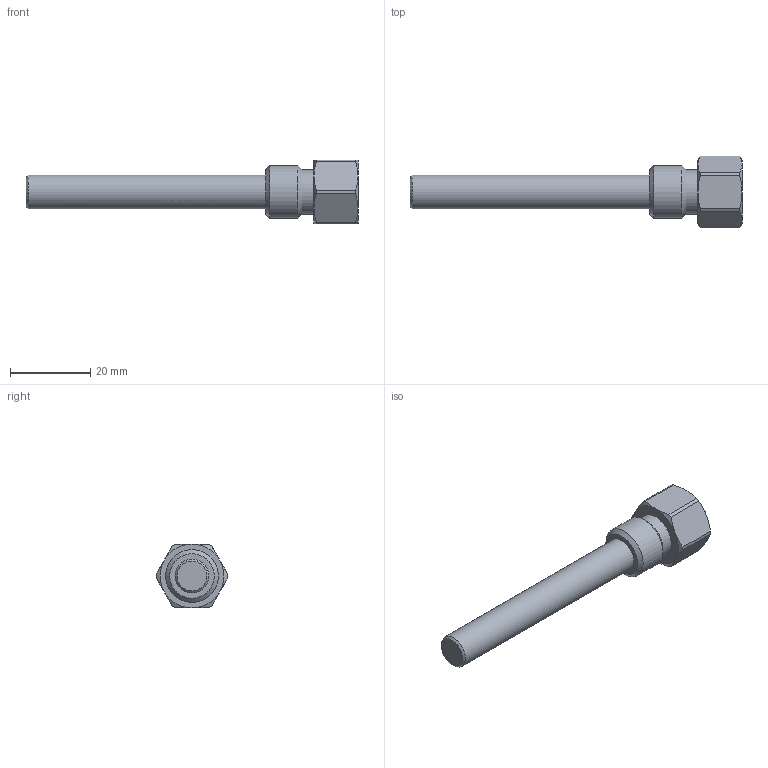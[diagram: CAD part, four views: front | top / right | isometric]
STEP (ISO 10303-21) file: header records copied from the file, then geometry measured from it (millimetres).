
FILE_DESCRIPTION (( 'STEP AP214' ), '1' );
FILE_NAME ('1413306AXX.STEP', '2016-12-22T13:30:59', ( 'Utente' ), ( 'Microsoft' ), 'SwSTEP 2.0', 'SolidWorks 2016', '' );
FILE_SCHEMA (( 'AUTOMOTIVE_DESIGN' ));
Length unit declared in the file: millimetre
Products named in the file (1): 1413306AXX
Bounding box: 83 x 18 x 16 mm (x, y, z)
Volume: 3872.8 mm3; surface area: 4911.1 mm2
Topology: 1 solids, 1 shells, 40 faces, 85 edges, 51 vertices
Faces by surface type: cone 17, plane 12, cylinder 11
Full cylindrical faces by diameter (mm): 6.5 x1, 8.5 x1, 11 x1, 11.36 x1, 13.16 x1
Entity records: 1142 total; most frequent: CARTESIAN_POINT 309, DIRECTION 170, ORIENTED_EDGE 148, AXIS2_PLACEMENT_3D 79, EDGE_CURVE 74, EDGE_LOOP 54, VERTEX_POINT 50, FACE_OUTER_BOUND 45
